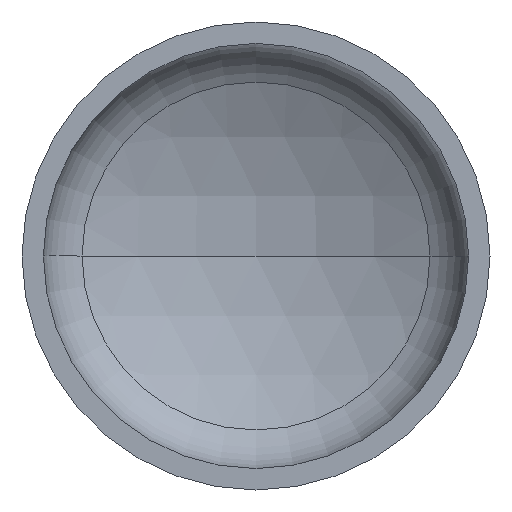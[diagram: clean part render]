
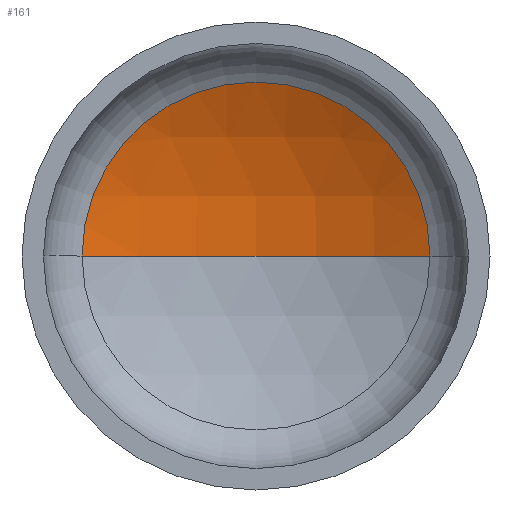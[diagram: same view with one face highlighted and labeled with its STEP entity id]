
A CAD part, front view. The second image highlights one B-rep face of the part: STEP entity #161.
In plain terms, the highlighted spherical face has radius 1920 mm.
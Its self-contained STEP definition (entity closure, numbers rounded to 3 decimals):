
#8 = AXIS2_PLACEMENT_3D ( 'NONE', #367, #232, #389 ) ;
#15 = AXIS2_PLACEMENT_3D ( 'NONE', #206, #365, #231 ) ;
#22 = ORIENTED_EDGE ( 'NONE', *, *, #381, .T. ) ;
#34 = ORIENTED_EDGE ( 'NONE', *, *, #361, .F. ) ;
#44 = VERTEX_POINT ( 'NONE', #116 ) ;
#62 = DIRECTION ( 'NONE',  ( -1., 0., 0. ) ) ;
#70 = DIRECTION ( 'NONE',  ( 0., -1., 0. ) ) ;
#76 = AXIS2_PLACEMENT_3D ( 'NONE', #157, #345, #62 ) ;
#89 = EDGE_LOOP ( 'NONE', ( #34, #22, #130 ) ) ;
#116 = CARTESIAN_POINT ( 'NONE',  ( 0., 622.375, 0. ) ) ;
#123 = VERTEX_POINT ( 'NONE', #288 ) ;
#126 = CARTESIAN_POINT ( 'NONE',  ( -891.871, 402.659, 0. ) ) ;
#127 = CIRCLE ( 'NONE', #15, 1920. ) ;
#130 = ORIENTED_EDGE ( 'NONE', *, *, #384, .T. ) ;
#157 = CARTESIAN_POINT ( 'NONE',  ( 0., -1297.625, 0. ) ) ;
#161 = ADVANCED_FACE ( 'NONE', ( #374 ), #250, .F. ) ;
#202 = CIRCLE ( 'NONE', #8, 1920. ) ;
#206 = CARTESIAN_POINT ( 'NONE',  ( 0., -1297.625, 0. ) ) ;
#231 = DIRECTION ( 'NONE',  ( 1., 0., 0. ) ) ;
#232 = DIRECTION ( 'NONE',  ( 0., 0., -1. ) ) ;
#250 = SPHERICAL_SURFACE ( 'NONE', #76, 1920. ) ;
#256 = AXIS2_PLACEMENT_3D ( 'NONE', #273, #70, #296 ) ;
#262 = CIRCLE ( 'NONE', #256, 891.871 ) ;
#273 = CARTESIAN_POINT ( 'NONE',  ( 0., 402.659, 0. ) ) ;
#288 = CARTESIAN_POINT ( 'NONE',  ( 891.871, 402.659, 0. ) ) ;
#296 = DIRECTION ( 'NONE',  ( 1., 0., 0. ) ) ;
#340 = VERTEX_POINT ( 'NONE', #126 ) ;
#345 = DIRECTION ( 'NONE',  ( 0., 0., -1. ) ) ;
#361 = EDGE_CURVE ( 'NONE', #44, #340, #127, .T. ) ;
#365 = DIRECTION ( 'NONE',  ( 0., 0., 1. ) ) ;
#367 = CARTESIAN_POINT ( 'NONE',  ( 0., -1297.625, 0. ) ) ;
#374 = FACE_OUTER_BOUND ( 'NONE', #89, .T. ) ;
#381 = EDGE_CURVE ( 'NONE', #44, #123, #202, .T. ) ;
#384 = EDGE_CURVE ( 'NONE', #123, #340, #262, .T. ) ;
#389 = DIRECTION ( 'NONE',  ( -1., 0., 0. ) ) ;
